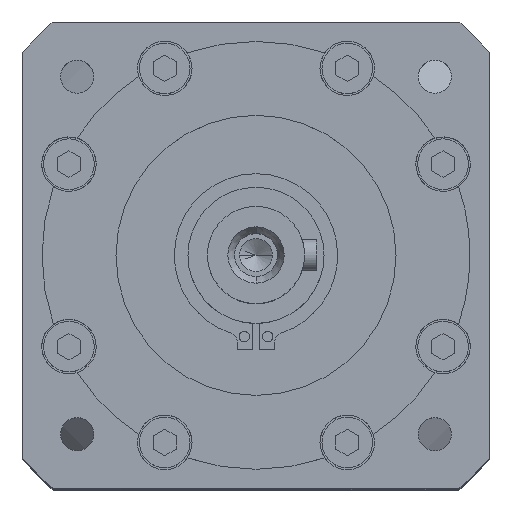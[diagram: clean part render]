
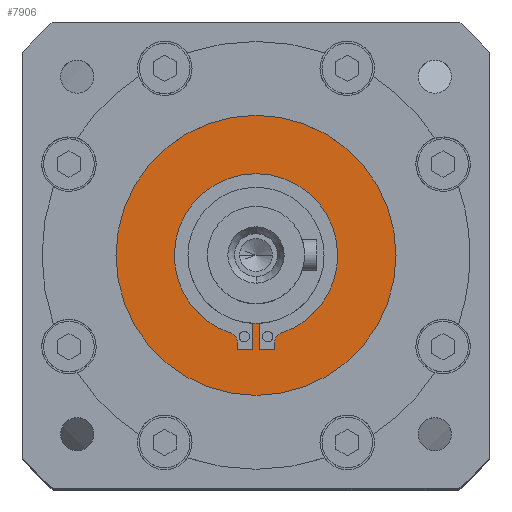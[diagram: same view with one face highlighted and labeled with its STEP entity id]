
A CAD part, top view. The second image highlights one B-rep face of the part: STEP entity #7906.
In plain terms, the highlighted planar face has unit normal (0, 0, 1).
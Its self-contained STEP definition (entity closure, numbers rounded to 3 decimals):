
#242 = DIRECTION ( 'NONE',  ( -1., 0., 0. ) ) ;
#1144 = DIRECTION ( 'NONE',  ( 0., 0., 1. ) ) ;
#1431 = EDGE_CURVE ( 'NONE', #38867, #15366, #32533, .T. ) ;
#2594 = CARTESIAN_POINT ( 'NONE',  ( 4.35, -23.779, -2.7 ) ) ;
#3087 = FACE_OUTER_BOUND ( 'NONE', #25230, .T. ) ;
#3424 = DIRECTION ( 'NONE',  ( 0., 1., 0. ) ) ;
#3923 = EDGE_CURVE ( 'NONE', #24012, #21376, #36339, .T. ) ;
#3988 = DIRECTION ( 'NONE',  ( 0., 0., 1. ) ) ;
#5168 = DIRECTION ( 'NONE',  ( 0., -1., 0. ) ) ;
#5250 = PLANE ( 'NONE',  #10384 ) ;
#5785 = CARTESIAN_POINT ( 'NONE',  ( 0., 0., -2.7 ) ) ;
#6334 = DIRECTION ( 'NONE',  ( -1., 0., 0. ) ) ;
#6776 = VECTOR ( 'NONE', #45927, 1000. ) ;
#6832 = DIRECTION ( 'NONE',  ( 0., 0., -1. ) ) ;
#7429 = DIRECTION ( 'NONE',  ( 0., 0., -1. ) ) ;
#7520 = CARTESIAN_POINT ( 'NONE',  ( -4.35, -24.279, -2.7 ) ) ;
#7541 = AXIS2_PLACEMENT_3D ( 'NONE', #43839, #22330, #242 ) ;
#7906 = ADVANCED_FACE ( 'NONE', ( #3087, #39503 ), #5250, .F. ) ;
#8666 = DIRECTION ( 'NONE',  ( 0., 0., 1. ) ) ;
#9284 = EDGE_CURVE ( 'NONE', #10789, #31330, #21412, .T. ) ;
#9356 = CARTESIAN_POINT ( 'NONE',  ( -0.85, -24.279, -2.7 ) ) ;
#9614 = CIRCLE ( 'NONE', #42089, 36. ) ;
#9743 = VERTEX_POINT ( 'NONE', #21782 ) ;
#10384 = AXIS2_PLACEMENT_3D ( 'NONE', #5785, #7429, #20461 ) ;
#10789 = VERTEX_POINT ( 'NONE', #39233 ) ;
#10993 = VECTOR ( 'NONE', #20477, 1000. ) ;
#11211 = VECTOR ( 'NONE', #27304, 1000. ) ;
#11248 = CARTESIAN_POINT ( 'NONE',  ( 4.85, -22.321, -2.7 ) ) ;
#12849 = CARTESIAN_POINT ( 'NONE',  ( 6.568, -19.946, -2.7 ) ) ;
#12857 = ORIENTED_EDGE ( 'NONE', *, *, #3923, .F. ) ;
#14590 = CIRCLE ( 'NONE', #45532, 21. ) ;
#15366 = VERTEX_POINT ( 'NONE', #45066 ) ;
#16107 = CARTESIAN_POINT ( 'NONE',  ( -4.85, 0., -2.7 ) ) ;
#16955 = CARTESIAN_POINT ( 'NONE',  ( 4.85, -23.779, -2.7 ) ) ;
#17078 = CARTESIAN_POINT ( 'NONE',  ( 0., -24.279, -2.7 ) ) ;
#17736 = CARTESIAN_POINT ( 'NONE',  ( 0., 0., -2.7 ) ) ;
#17905 = VERTEX_POINT ( 'NONE', #47194 ) ;
#18230 = AXIS2_PLACEMENT_3D ( 'NONE', #40062, #40005, #39913 ) ;
#18547 = ORIENTED_EDGE ( 'NONE', *, *, #35744, .F. ) ;
#18629 = CIRCLE ( 'NONE', #24771, 21. ) ;
#19057 = VECTOR ( 'NONE', #5168, 1000. ) ;
#19768 = CARTESIAN_POINT ( 'NONE',  ( 21., 0., -2.7 ) ) ;
#20461 = DIRECTION ( 'NONE',  ( -1., 0., 0. ) ) ;
#20477 = DIRECTION ( 'NONE',  ( 0., 1., 0. ) ) ;
#20642 = CARTESIAN_POINT ( 'NONE',  ( -6.568, -19.946, -2.7 ) ) ;
#21171 = CARTESIAN_POINT ( 'NONE',  ( 0.85, 0., -2.7 ) ) ;
#21376 = VERTEX_POINT ( 'NONE', #12849 ) ;
#21394 = ORIENTED_EDGE ( 'NONE', *, *, #30334, .F. ) ;
#21412 = CIRCLE ( 'NONE', #41626, 36. ) ;
#21425 = DIRECTION ( 'NONE',  ( 1., 0., 0. ) ) ;
#21782 = CARTESIAN_POINT ( 'NONE',  ( -4.85, -23.779, -2.7 ) ) ;
#22194 = CIRCLE ( 'NONE', #22305, 0.5 ) ;
#22305 = AXIS2_PLACEMENT_3D ( 'NONE', #30525, #8666, #34096 ) ;
#22330 = DIRECTION ( 'NONE',  ( 0., 0., 1. ) ) ;
#22386 = VERTEX_POINT ( 'NONE', #19768 ) ;
#23204 = CARTESIAN_POINT ( 'NONE',  ( 0., 0., -2.7 ) ) ;
#23694 = ORIENTED_EDGE ( 'NONE', *, *, #45756, .F. ) ;
#23724 = AXIS2_PLACEMENT_3D ( 'NONE', #28738, #6832, #32318 ) ;
#24012 = VERTEX_POINT ( 'NONE', #11248 ) ;
#24771 = AXIS2_PLACEMENT_3D ( 'NONE', #25960, #3988, #29604 ) ;
#24996 = ORIENTED_EDGE ( 'NONE', *, *, #9284, .T. ) ;
#25230 = EDGE_LOOP ( 'NONE', ( #24996, #26120 ) ) ;
#25960 = CARTESIAN_POINT ( 'NONE',  ( 0., 0., -2.7 ) ) ;
#26120 = ORIENTED_EDGE ( 'NONE', *, *, #44039, .T. ) ;
#26223 = VERTEX_POINT ( 'NONE', #36146 ) ;
#26827 = DIRECTION ( 'NONE',  ( -1., 0., 0. ) ) ;
#27304 = DIRECTION ( 'NONE',  ( 1., 0., 0. ) ) ;
#27862 = CIRCLE ( 'NONE', #7541, 21. ) ;
#27974 = ORIENTED_EDGE ( 'NONE', *, *, #34944, .F. ) ;
#28251 = DIRECTION ( 'NONE',  ( 0., 0., 1. ) ) ;
#28561 = CIRCLE ( 'NONE', #23724, 2.5 ) ;
#28738 = CARTESIAN_POINT ( 'NONE',  ( -7.35, -22.321, -2.7 ) ) ;
#29454 = EDGE_CURVE ( 'NONE', #26223, #45357, #45319, .T. ) ;
#29481 = ORIENTED_EDGE ( 'NONE', *, *, #40548, .F. ) ;
#29531 = ORIENTED_EDGE ( 'NONE', *, *, #36310, .F. ) ;
#29604 = DIRECTION ( 'NONE',  ( -1., 0., 0. ) ) ;
#29715 = CARTESIAN_POINT ( 'NONE',  ( -36., 0., -2.7 ) ) ;
#30032 = CARTESIAN_POINT ( 'NONE',  ( -0.85, -17.479, -2.7 ) ) ;
#30334 = EDGE_CURVE ( 'NONE', #38528, #24012, #34788, .T. ) ;
#30392 = LINE ( 'NONE', #45626, #10993 ) ;
#30408 = AXIS2_PLACEMENT_3D ( 'NONE', #2594, #28251, #6334 ) ;
#30525 = CARTESIAN_POINT ( 'NONE',  ( -4.35, -23.779, -2.7 ) ) ;
#31275 = VERTEX_POINT ( 'NONE', #7520 ) ;
#31330 = VERTEX_POINT ( 'NONE', #29715 ) ;
#31554 = DIRECTION ( 'NONE',  ( 1., 0., 0. ) ) ;
#31565 = DIRECTION ( 'NONE',  ( 0., 0., 1. ) ) ;
#31600 = CARTESIAN_POINT ( 'NONE',  ( 0., 0., -2.7 ) ) ;
#31607 = EDGE_CURVE ( 'NONE', #35103, #33768, #28561, .T. ) ;
#31853 = ORIENTED_EDGE ( 'NONE', *, *, #29454, .F. ) ;
#32318 = DIRECTION ( 'NONE',  ( -1., 0., 0. ) ) ;
#32521 = AXIS2_PLACEMENT_3D ( 'NONE', #45158, #45261, #45318 ) ;
#32533 = CIRCLE ( 'NONE', #32521, 17.5 ) ;
#32986 = LINE ( 'NONE', #21171, #42489 ) ;
#33181 = EDGE_LOOP ( 'NONE', ( #37005, #37006, #35224, #18547, #29531, #23694, #12857, #21394, #41084, #31853, #34277, #35109, #29481, #27974 ) ) ;
#33768 = VERTEX_POINT ( 'NONE', #41792 ) ;
#34096 = DIRECTION ( 'NONE',  ( -1., 0., 0. ) ) ;
#34277 = ORIENTED_EDGE ( 'NONE', *, *, #43552, .F. ) ;
#34788 = LINE ( 'NONE', #36084, #44344 ) ;
#34944 = EDGE_CURVE ( 'NONE', #31275, #47123, #40094, .T. ) ;
#35103 = VERTEX_POINT ( 'NONE', #20642 ) ;
#35109 = ORIENTED_EDGE ( 'NONE', *, *, #1431, .F. ) ;
#35224 = ORIENTED_EDGE ( 'NONE', *, *, #31607, .F. ) ;
#35744 = EDGE_CURVE ( 'NONE', #17905, #35103, #18629, .T. ) ;
#36084 = CARTESIAN_POINT ( 'NONE',  ( 4.85, 0., -2.7 ) ) ;
#36146 = CARTESIAN_POINT ( 'NONE',  ( 0.85, -24.279, -2.7 ) ) ;
#36310 = EDGE_CURVE ( 'NONE', #22386, #17905, #14590, .T. ) ;
#36339 = CIRCLE ( 'NONE', #18230, 2.5 ) ;
#37005 = ORIENTED_EDGE ( 'NONE', *, *, #45964, .F. ) ;
#37006 = ORIENTED_EDGE ( 'NONE', *, *, #39458, .F. ) ;
#37543 = CIRCLE ( 'NONE', #30408, 0.5 ) ;
#38218 = LINE ( 'NONE', #16107, #19057 ) ;
#38528 = VERTEX_POINT ( 'NONE', #16955 ) ;
#38867 = VERTEX_POINT ( 'NONE', #30032 ) ;
#39233 = CARTESIAN_POINT ( 'NONE',  ( 36., 0., -2.7 ) ) ;
#39458 = EDGE_CURVE ( 'NONE', #33768, #9743, #38218, .T. ) ;
#39503 = FACE_BOUND ( 'NONE', #33181, .T. ) ;
#39913 = DIRECTION ( 'NONE',  ( -1., 0., 0. ) ) ;
#40005 = DIRECTION ( 'NONE',  ( 0., 0., -1. ) ) ;
#40062 = CARTESIAN_POINT ( 'NONE',  ( 7.35, -22.321, -2.7 ) ) ;
#40094 = LINE ( 'NONE', #45160, #11211 ) ;
#40548 = EDGE_CURVE ( 'NONE', #47123, #38867, #30392, .T. ) ;
#41084 = ORIENTED_EDGE ( 'NONE', *, *, #42756, .F. ) ;
#41626 = AXIS2_PLACEMENT_3D ( 'NONE', #31600, #31565, #31554 ) ;
#41792 = CARTESIAN_POINT ( 'NONE',  ( -4.85, -22.321, -2.7 ) ) ;
#42089 = AXIS2_PLACEMENT_3D ( 'NONE', #17736, #42958, #21425 ) ;
#42489 = VECTOR ( 'NONE', #42706, 1000. ) ;
#42706 = DIRECTION ( 'NONE',  ( 0., -1., 0. ) ) ;
#42756 = EDGE_CURVE ( 'NONE', #45357, #38528, #37543, .T. ) ;
#42958 = DIRECTION ( 'NONE',  ( 0., 0., 1. ) ) ;
#43552 = EDGE_CURVE ( 'NONE', #15366, #26223, #32986, .T. ) ;
#43839 = CARTESIAN_POINT ( 'NONE',  ( 0., 0., -2.7 ) ) ;
#44039 = EDGE_CURVE ( 'NONE', #31330, #10789, #9614, .T. ) ;
#44344 = VECTOR ( 'NONE', #3424, 1000. ) ;
#44370 = CARTESIAN_POINT ( 'NONE',  ( 4.35, -24.279, -2.7 ) ) ;
#45066 = CARTESIAN_POINT ( 'NONE',  ( 0.85, -17.479, -2.7 ) ) ;
#45158 = CARTESIAN_POINT ( 'NONE',  ( 0., 0., -2.7 ) ) ;
#45160 = CARTESIAN_POINT ( 'NONE',  ( 0., -24.279, -2.7 ) ) ;
#45261 = DIRECTION ( 'NONE',  ( 0., 0., 1. ) ) ;
#45318 = DIRECTION ( 'NONE',  ( -1., 0., 0. ) ) ;
#45319 = LINE ( 'NONE', #17078, #6776 ) ;
#45357 = VERTEX_POINT ( 'NONE', #44370 ) ;
#45532 = AXIS2_PLACEMENT_3D ( 'NONE', #23204, #1144, #26827 ) ;
#45626 = CARTESIAN_POINT ( 'NONE',  ( -0.85, 0., -2.7 ) ) ;
#45756 = EDGE_CURVE ( 'NONE', #21376, #22386, #27862, .T. ) ;
#45927 = DIRECTION ( 'NONE',  ( 1., 0., 0. ) ) ;
#45964 = EDGE_CURVE ( 'NONE', #9743, #31275, #22194, .T. ) ;
#47123 = VERTEX_POINT ( 'NONE', #9356 ) ;
#47194 = CARTESIAN_POINT ( 'NONE',  ( -21., 0., -2.7 ) ) ;
